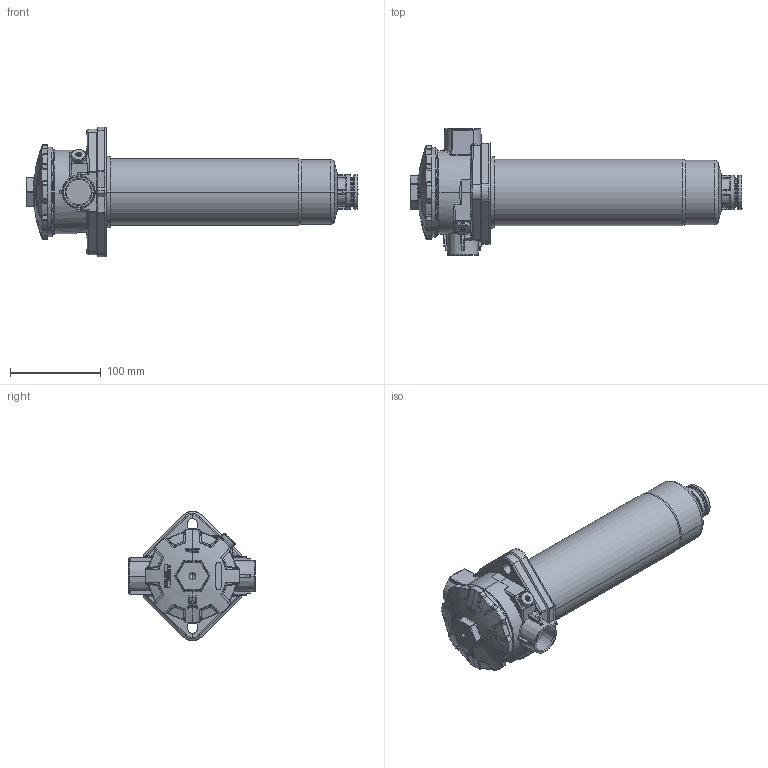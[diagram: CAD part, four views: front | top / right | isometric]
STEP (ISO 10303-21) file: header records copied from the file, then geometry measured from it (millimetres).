
FILE_DESCRIPTION((''),'2;1');
FILE_NAME('E_143-667','2024-09-02T14:36:31',('a.heinl'),(''),'CREO PARAMETRIC BY PTC INC, 2023254','CREO PARAMETRIC BY PTC INC, 2023254','');
FILE_SCHEMA(('AUTOMOTIVE_DESIGN { 1 0 10303 214 1 1 1 1 }'));
Length unit declared in the file: millimetre
Products named in the file (1): E_143-667
Bounding box: 364.95 x 139 x 142.55 mm (x, y, z)
Volume: 1662920.8 mm3; surface area: 137074.1 mm2
Topology: 1 solids, 3 shells, 1444 faces, 3725 edges, 2274 vertices
Faces by surface type: plane 509, cylinder 330, bspline 303, torus 111, cone 101, sphere 55, extrusion 35
Entity records: 86526 total; most frequent: CARTESIAN_POINT 29968, ORIENTED_EDGE 7344, DIRECTION 6000, PRESENTATION_STYLE_ASSIGNMENT 5143, STYLED_ITEM 3704, CURVE_STYLE 3703, EDGE_CURVE 3672, AXIS2_PLACEMENT_3D 2409
